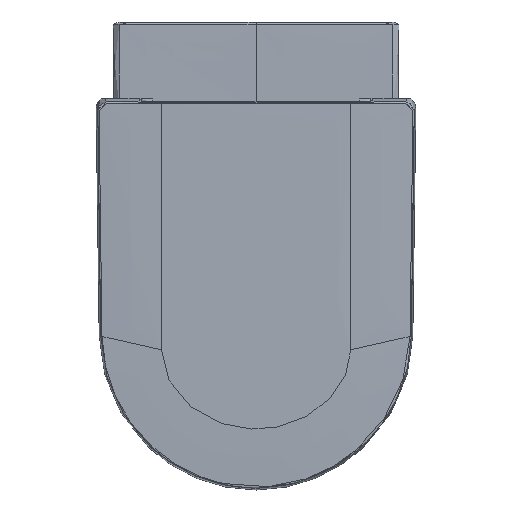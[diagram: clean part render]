
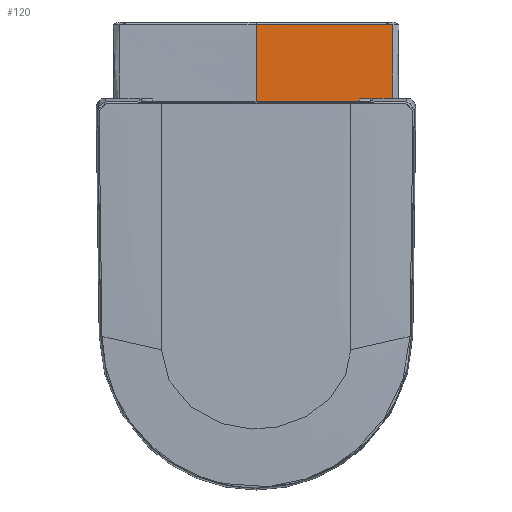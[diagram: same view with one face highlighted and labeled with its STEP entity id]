
A CAD part, top view. The second image highlights one B-rep face of the part: STEP entity #120.
In plain terms, the highlighted free-form (B-spline) face has degree [5, 5] with [6, 6] control points.
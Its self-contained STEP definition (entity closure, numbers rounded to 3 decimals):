
#120=ADVANCED_FACE('',(#1337),#17477,.T.);
#1337=FACE_OUTER_BOUND('',#2554,.T.);
#2554=EDGE_LOOP('',(#4220,#4221,#4222,#4223,#4224,#4225));
#4220=ORIENTED_EDGE('',*,*,#9592,.T.);
#4221=ORIENTED_EDGE('',*,*,#9742,.T.);
#4222=ORIENTED_EDGE('',*,*,#9968,.T.);
#4223=ORIENTED_EDGE('',*,*,#9759,.T.);
#4224=ORIENTED_EDGE('',*,*,#9611,.T.);
#4225=ORIENTED_EDGE('',*,*,#9743,.F.);
#9592=EDGE_CURVE('',#15409,#15408,#13360,.T.);
#9611=EDGE_CURVE('',#15427,#15410,#13377,.T.);
#9742=EDGE_CURVE('',#15408,#15546,#13504,.T.);
#9743=EDGE_CURVE('',#15409,#15410,#13505,.T.);
#9759=EDGE_CURVE('',#15547,#15427,#13520,.T.);
#9968=EDGE_CURVE('',#15546,#15547,#13706,.T.);
#13360=B_SPLINE_CURVE_WITH_KNOTS('',5,(#154664,#154665,#154666,#154667,
#154668,#154669),.UNSPECIFIED.,.F.,.F.,(6,6),(-537.378,-316.559),
 .UNSPECIFIED.);
#13377=B_SPLINE_CURVE_WITH_KNOTS('',5,(#154795,#154796,#154797,#154798,
#154799,#154800),.UNSPECIFIED.,.F.,.F.,(6,6),(203.55,339.059),
 .UNSPECIFIED.);
#13504=B_SPLINE_CURVE_WITH_KNOTS('',5,(#155584,#155585,#155586,#155587,
#155588,#155589),.UNSPECIFIED.,.F.,.F.,(6,6),(-142.598,0.),
 .UNSPECIFIED.);
#13505=B_SPLINE_CURVE_WITH_KNOTS('',3,(#155590,#155591,#155592,#155593),
 .UNSPECIFIED.,.F.,.F.,(4,4),(0.,7.339),.UNSPECIFIED.);
#13520=B_SPLINE_CURVE_WITH_KNOTS('',5,(#155737,#155738,#155739,#155740,
#155741,#155742),.UNSPECIFIED.,.F.,.F.,(6,6),(-5.187,0.),
 .UNSPECIFIED.);
#13706=B_SPLINE_CURVE_WITH_KNOTS('',5,(#157292,#157293,#157294,#157295,
#157296,#157297),.UNSPECIFIED.,.F.,.F.,(6,6),(166.962,327.764),
 .UNSPECIFIED.);
#15408=VERTEX_POINT('',#152824);
#15409=VERTEX_POINT('',#152825);
#15410=VERTEX_POINT('',#152826);
#15427=VERTEX_POINT('',#152843);
#15546=VERTEX_POINT('',#152962);
#15547=VERTEX_POINT('',#152963);
#17477=B_SPLINE_SURFACE_WITH_KNOTS('',5,5,((#22796,#22797,#22798,#22799,
#22800,#22801),(#22802,#22803,#22804,#22805,#22806,#22807),(#22808,#22809,
#22810,#22811,#22812,#22813),(#22814,#22815,#22816,#22817,#22818,#22819),
(#22820,#22821,#22822,#22823,#22824,#22825),(#22826,#22827,#22828,#22829,
#22830,#22831)),.UNSPECIFIED.,.F.,.F.,.F.,(6,6),(6,6),(0.,
333.924),(-183.088,-79.444),.UNSPECIFIED.);
#22796=CARTESIAN_POINT('',(-166.921,166.914,179.502));
#22797=CARTESIAN_POINT('',(-166.921,187.599,179.502));
#22798=CARTESIAN_POINT('',(-166.921,208.283,179.502));
#22799=CARTESIAN_POINT('',(-166.921,228.968,179.502));
#22800=CARTESIAN_POINT('',(-166.921,249.652,179.502));
#22801=CARTESIAN_POINT('',(-166.921,270.336,179.502));
#22802=CARTESIAN_POINT('',(-100.135,166.914,179.502));
#22803=CARTESIAN_POINT('',(-100.136,187.599,179.502));
#22804=CARTESIAN_POINT('',(-100.137,208.283,179.662));
#22805=CARTESIAN_POINT('',(-100.138,228.968,179.902));
#22806=CARTESIAN_POINT('',(-100.139,249.652,180.142));
#22807=CARTESIAN_POINT('',(-100.14,270.336,180.302));
#22808=CARTESIAN_POINT('',(-33.352,166.914,179.502));
#22809=CARTESIAN_POINT('',(-33.352,187.6,179.502));
#22810=CARTESIAN_POINT('',(-33.353,208.285,179.742));
#22811=CARTESIAN_POINT('',(-33.353,228.968,180.102));
#22812=CARTESIAN_POINT('',(-33.354,249.652,180.462));
#22813=CARTESIAN_POINT('',(-33.354,270.336,180.702));
#22814=CARTESIAN_POINT('',(33.433,166.914,179.502));
#22815=CARTESIAN_POINT('',(33.434,187.6,179.502));
#22816=CARTESIAN_POINT('',(33.434,208.285,179.742));
#22817=CARTESIAN_POINT('',(33.435,228.968,180.102));
#22818=CARTESIAN_POINT('',(33.435,249.652,180.462));
#22819=CARTESIAN_POINT('',(33.436,270.336,180.702));
#22820=CARTESIAN_POINT('',(100.217,166.914,179.502));
#22821=CARTESIAN_POINT('',(100.218,187.599,179.502));
#22822=CARTESIAN_POINT('',(100.219,208.283,179.662));
#22823=CARTESIAN_POINT('',(100.22,228.968,179.902));
#22824=CARTESIAN_POINT('',(100.221,249.652,180.142));
#22825=CARTESIAN_POINT('',(100.222,270.336,180.302));
#22826=CARTESIAN_POINT('',(167.003,166.914,179.502));
#22827=CARTESIAN_POINT('',(167.003,187.599,179.502));
#22828=CARTESIAN_POINT('',(167.003,208.283,179.502));
#22829=CARTESIAN_POINT('',(167.003,228.968,179.502));
#22830=CARTESIAN_POINT('',(167.003,249.652,179.502));
#22831=CARTESIAN_POINT('',(167.003,270.336,179.502));
#152824=CARTESIAN_POINT('',(0.041,267.636,180.475));
#152825=CARTESIAN_POINT('',(156.197,267.636,179.624));
#152826=CARTESIAN_POINT('',(160.076,267.449,179.581));
#152843=CARTESIAN_POINT('',(159.994,171.722,179.502));
#152962=CARTESIAN_POINT('',(0.041,166.914,179.502));
#152963=CARTESIAN_POINT('',(160.842,166.914,179.502));
#154664=CARTESIAN_POINT('',(156.197,267.636,179.624));
#154665=CARTESIAN_POINT('',(124.968,267.636,179.964));
#154666=CARTESIAN_POINT('',(93.737,267.636,180.22));
#154667=CARTESIAN_POINT('',(62.505,267.636,180.39));
#154668=CARTESIAN_POINT('',(31.273,267.636,180.475));
#154669=CARTESIAN_POINT('',(0.041,267.636,180.475));
#154795=CARTESIAN_POINT('',(159.994,171.722,179.502));
#154796=CARTESIAN_POINT('',(160.006,190.864,179.505));
#154797=CARTESIAN_POINT('',(160.021,210.01,179.521));
#154798=CARTESIAN_POINT('',(160.041,229.154,179.543));
#154799=CARTESIAN_POINT('',(160.063,248.302,179.565));
#154800=CARTESIAN_POINT('',(160.076,267.449,179.581));
#155584=CARTESIAN_POINT('',(0.041,267.636,180.475));
#155585=CARTESIAN_POINT('',(0.041,247.492,180.271));
#155586=CARTESIAN_POINT('',(0.041,227.348,179.979));
#155587=CARTESIAN_POINT('',(0.041,207.204,179.692));
#155588=CARTESIAN_POINT('',(0.041,187.06,179.502));
#155589=CARTESIAN_POINT('',(0.041,166.914,179.502));
#155590=CARTESIAN_POINT('',(156.197,267.636,179.624));
#155591=CARTESIAN_POINT('',(157.495,267.636,179.61));
#155592=CARTESIAN_POINT('',(158.785,267.567,179.595));
#155593=CARTESIAN_POINT('',(160.076,267.449,179.581));
#155737=CARTESIAN_POINT('',(160.842,166.914,179.502));
#155738=CARTESIAN_POINT('',(160.506,167.836,179.502));
#155739=CARTESIAN_POINT('',(160.25,168.788,179.502));
#155740=CARTESIAN_POINT('',(160.079,169.759,179.502));
#155741=CARTESIAN_POINT('',(159.993,170.74,179.502));
#155742=CARTESIAN_POINT('',(159.994,171.722,179.502));
#157292=CARTESIAN_POINT('',(0.041,166.914,179.502));
#157293=CARTESIAN_POINT('',(32.201,166.914,179.502));
#157294=CARTESIAN_POINT('',(64.361,166.914,179.502));
#157295=CARTESIAN_POINT('',(96.521,166.914,179.502));
#157296=CARTESIAN_POINT('',(128.682,166.914,179.502));
#157297=CARTESIAN_POINT('',(160.842,166.914,179.502));
